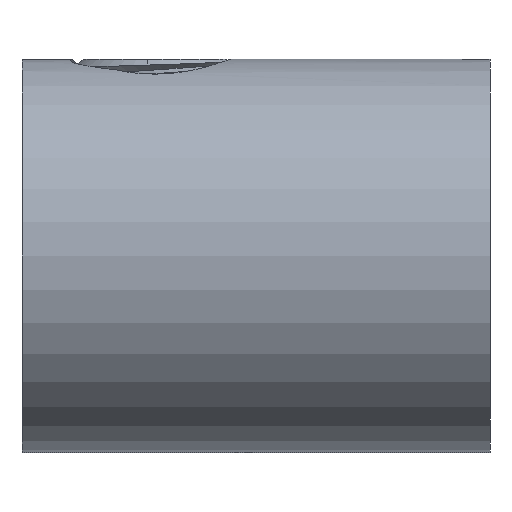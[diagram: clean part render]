
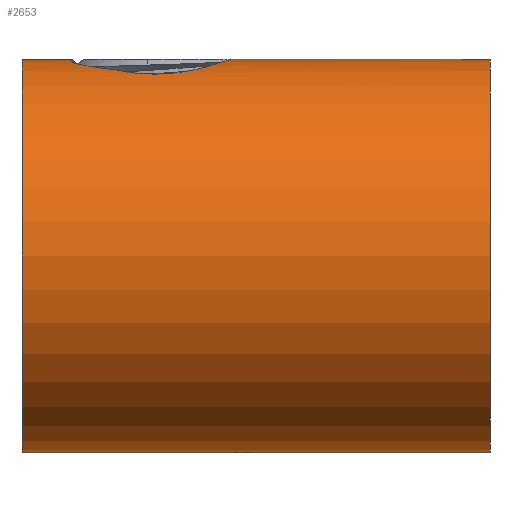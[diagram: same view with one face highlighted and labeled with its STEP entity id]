
A CAD part, left-side view. The second image highlights one B-rep face of the part: STEP entity #2653.
In plain terms, the highlighted cylindrical face has radius 5.334 mm (diameter 10.668 mm), a partial arc.
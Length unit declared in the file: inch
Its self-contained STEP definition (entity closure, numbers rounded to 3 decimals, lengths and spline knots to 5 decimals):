
#277 = EDGE_CURVE ( 'NONE', #2864, #8018, #7757, .T. ) ;
#318 = ORIENTED_EDGE ( 'NONE', *, *, #465, .F. ) ;
#402 = ORIENTED_EDGE ( 'NONE', *, *, #10448, .F. ) ;
#465 = EDGE_CURVE ( 'NONE', #1525, #2706, #4515, .T. ) ;
#517 = CARTESIAN_POINT ( 'NONE',  ( -0.0795, 0.358, 0.19437 ) ) ;
#715 = CARTESIAN_POINT ( 'NONE',  ( -0.06273, 0.41576, 0.20047 ) ) ;
#736 = EDGE_CURVE ( 'NONE', #2905, #11048, #1439, .T. ) ;
#751 = CARTESIAN_POINT ( 'NONE',  ( 0., 0.5, 0. ) ) ;
#885 = ORIENTED_EDGE ( 'NONE', *, *, #4196, .T. ) ;
#958 = CARTESIAN_POINT ( 'NONE',  ( 0., 0.5, 0.21 ) ) ;
#1030 = CARTESIAN_POINT ( 'NONE',  ( 0., 0.27771, 0.21 ) ) ;
#1151 = EDGE_CURVE ( 'NONE', #3807, #11091, #8131, .T. ) ;
#1189 = CARTESIAN_POINT ( 'NONE',  ( -0.04395, 0.44222, 0.20535 ) ) ;
#1252 = ORIENTED_EDGE ( 'NONE', *, *, #8377, .F. ) ;
#1267 = CARTESIAN_POINT ( 'NONE',  ( -0.03186, 0.28516, 0.20757 ) ) ;
#1312 = CARTESIAN_POINT ( 'NONE',  ( 0., 0., -0.21 ) ) ;
#1439 = B_SPLINE_CURVE_WITH_KNOTS ( 'NONE', 3,
 ( #2035, #9363, #3024, #11178, #2913, #3908 ),
 .UNSPECIFIED., .F., .F.,
 ( 4, 2, 4 ),
 ( 0.00082, 0.00124, 0.00166 ),
 .UNSPECIFIED. ) ;
#1516 = B_SPLINE_CURVE_WITH_KNOTS ( 'NONE', 3,
 ( #3607, #8990, #9942, #3531, #7223, #1774, #5369, #2535, #6285, #10732 ),
 .UNSPECIFIED., .F., .F.,
 ( 4, 2, 2, 2, 4 ),
 ( 0.00402, 0.00461, 0.0052, 0.00578, 0.00637 ),
 .UNSPECIFIED. ) ;
#1525 = VERTEX_POINT ( 'NONE', #6782 ) ;
#1611 = CARTESIAN_POINT ( 'NONE',  ( -0.04395, 0.44222, 0.20535 ) ) ;
#1645 = CARTESIAN_POINT ( 'NONE',  ( -0.04127, 0.44362, 0.20592 ) ) ;
#1692 = CARTESIAN_POINT ( 'NONE',  ( -0.02694, 0.4491, 0.20827 ) ) ;
#1699 = DIRECTION ( 'NONE',  ( 0., 0., 1. ) ) ;
#1774 = CARTESIAN_POINT ( 'NONE',  ( -0.07062, 0.32069, 0.19782 ) ) ;
#1837 = CARTESIAN_POINT ( 'NONE',  ( 0., 0.5, 0.21 ) ) ;
#2035 = CARTESIAN_POINT ( 'NONE',  ( -0.03186, 0.28516, 0.20757 ) ) ;
#2064 = VECTOR ( 'NONE', #7557, 39.37008 ) ;
#2191 = CARTESIAN_POINT ( 'NONE',  ( -0.07842, 0.37301, 0.19482 ) ) ;
#2262 = CYLINDRICAL_SURFACE ( 'NONE', #4086, 0.21 ) ;
#2408 = CARTESIAN_POINT ( 'NONE',  ( -0.04395, 0.44222, 0.20535 ) ) ;
#2529 = CARTESIAN_POINT ( 'NONE',  ( -0.02694, 0.4491, 0.20827 ) ) ;
#2535 = CARTESIAN_POINT ( 'NONE',  ( -0.07834, 0.34243, 0.19486 ) ) ;
#2572 = CARTESIAN_POINT ( 'NONE',  ( -0.02988, 0.44823, 0.20788 ) ) ;
#2653 = ADVANCED_FACE ( 'NONE', ( #5813 ), #2262, .T. ) ;
#2703 = EDGE_CURVE ( 'NONE', #8008, #8018, #3778, .T. ) ;
#2706 = VERTEX_POINT ( 'NONE', #3356 ) ;
#2864 = VERTEX_POINT ( 'NONE', #1189 ) ;
#2905 = VERTEX_POINT ( 'NONE', #1267 ) ;
#2913 = CARTESIAN_POINT ( 'NONE',  ( -0.00558, 0.2771, 0.21 ) ) ;
#3003 = CARTESIAN_POINT ( 'NONE',  ( 0., 0., 0.21 ) ) ;
#3024 = CARTESIAN_POINT ( 'NONE',  ( -0.02195, 0.28009, 0.20892 ) ) ;
#3107 = CARTESIAN_POINT ( 'NONE',  ( -0.07119, 0.39414, 0.19761 ) ) ;
#3291 = EDGE_CURVE ( 'NONE', #2706, #8008, #5675, .T. ) ;
#3356 = CARTESIAN_POINT ( 'NONE',  ( 0., 0.5, 0.21 ) ) ;
#3531 = CARTESIAN_POINT ( 'NONE',  ( -0.05716, 0.30221, 0.20216 ) ) ;
#3607 = CARTESIAN_POINT ( 'NONE',  ( -0.03186, 0.28516, 0.20757 ) ) ;
#3645 = LINE ( 'NONE', #1837, #11262 ) ;
#3778 = B_SPLINE_CURVE_WITH_KNOTS ( 'NONE', 3,
 ( #7012, #4384, #11608, #6220 ),
 .UNSPECIFIED., .F., .F.,
 ( 4, 4 ),
 ( 0.00128, 0.00196 ),
 .UNSPECIFIED. ) ;
#3807 = VERTEX_POINT ( 'NONE', #517 ) ;
#3908 = CARTESIAN_POINT ( 'NONE',  ( 0., 0.27771, 0.21 ) ) ;
#4026 = CARTESIAN_POINT ( 'NONE',  ( -0.06727, 0.40037, 0.19893 ) ) ;
#4086 = AXIS2_PLACEMENT_3D ( 'NONE', #7862, #8773, #11525 ) ;
#4165 = CARTESIAN_POINT ( 'NONE',  ( -0.05491, 0.43036, 0.203 ) ) ;
#4196 = EDGE_CURVE ( 'NONE', #7032, #7244, #8467, .T. ) ;
#4384 = CARTESIAN_POINT ( 'NONE',  ( -0.00897, 0.4483, 0.21 ) ) ;
#4395 = CARTESIAN_POINT ( 'NONE',  ( 0., 0.44742, 0.21 ) ) ;
#4434 = CARTESIAN_POINT ( 'NONE',  ( -0.03851, 0.4449, 0.20646 ) ) ;
#4486 = CARTESIAN_POINT ( 'NONE',  ( 0., 0., 0. ) ) ;
#4515 = CIRCLE ( 'NONE', #5220, 0.21 ) ;
#4856 = CARTESIAN_POINT ( 'NONE',  ( -0.06727, 0.40037, 0.19893 ) ) ;
#5220 = AXIS2_PLACEMENT_3D ( 'NONE', #751, #7989, #8026 ) ;
#5245 = AXIS2_PLACEMENT_3D ( 'NONE', #4486, #6246, #1699 ) ;
#5369 = CARTESIAN_POINT ( 'NONE',  ( -0.07391, 0.32772, 0.19658 ) ) ;
#5675 = LINE ( 'NONE', #958, #11746 ) ;
#5801 = ORIENTED_EDGE ( 'NONE', *, *, #1151, .T. ) ;
#5813 = FACE_OUTER_BOUND ( 'NONE', #6336, .T. ) ;
#6220 = CARTESIAN_POINT ( 'NONE',  ( -0.02694, 0.4491, 0.20827 ) ) ;
#6246 = DIRECTION ( 'NONE',  ( 0., 1., 0. ) ) ;
#6285 = CARTESIAN_POINT ( 'NONE',  ( -0.0795, 0.35028, 0.19437 ) ) ;
#6336 = EDGE_LOOP ( 'NONE', ( #8720, #318, #8709, #885, #1252, #7379, #10088, #5801, #402, #9932, #9402 ) ) ;
#6782 = CARTESIAN_POINT ( 'NONE',  ( 0., 0.5, -0.21 ) ) ;
#7012 = CARTESIAN_POINT ( 'NONE',  ( 0., 0.44742, 0.21 ) ) ;
#7032 = VERTEX_POINT ( 'NONE', #1312 ) ;
#7223 = CARTESIAN_POINT ( 'NONE',  ( -0.06221, 0.30792, 0.20062 ) ) ;
#7244 = VERTEX_POINT ( 'NONE', #3003 ) ;
#7379 = ORIENTED_EDGE ( 'NONE', *, *, #736, .F. ) ;
#7486 = CARTESIAN_POINT ( 'NONE',  ( 0., 0.5, -0.21 ) ) ;
#7488 = EDGE_CURVE ( 'NONE', #1525, #7032, #10160, .T. ) ;
#7557 = DIRECTION ( 'NONE',  ( 0., -1., 0. ) ) ;
#7627 = CARTESIAN_POINT ( 'NONE',  ( -0.0795, 0.36545, 0.19437 ) ) ;
#7757 = B_SPLINE_CURVE_WITH_KNOTS ( 'NONE', 3,
 ( #2408, #1645, #4434, #8950, #2572, #1692 ),
 .UNSPECIFIED., .F., .F.,
 ( 4, 2, 4 ),
 ( 0.00444, 0.00468, 0.00491 ),
 .UNSPECIFIED. ) ;
#7862 = CARTESIAN_POINT ( 'NONE',  ( 0., 0.5, 0. ) ) ;
#7989 = DIRECTION ( 'NONE',  ( 0., 1., 0. ) ) ;
#8008 = VERTEX_POINT ( 'NONE', #4395 ) ;
#8018 = VERTEX_POINT ( 'NONE', #2529 ) ;
#8026 = DIRECTION ( 'NONE',  ( 0., 0., 1. ) ) ;
#8131 = B_SPLINE_CURVE_WITH_KNOTS ( 'NONE', 3,
 ( #10397, #7627, #2191, #8528, #3107, #4026 ),
 .UNSPECIFIED., .F., .F.,
 ( 4, 2, 4 ),
 ( 0.00637, 0.00694, 0.00751 ),
 .UNSPECIFIED. ) ;
#8377 = EDGE_CURVE ( 'NONE', #11048, #7244, #3645, .T. ) ;
#8467 = CIRCLE ( 'NONE', #5245, 0.21 ) ;
#8528 = CARTESIAN_POINT ( 'NONE',  ( -0.07429, 0.38727, 0.19643 ) ) ;
#8709 = ORIENTED_EDGE ( 'NONE', *, *, #7488, .T. ) ;
#8720 = ORIENTED_EDGE ( 'NONE', *, *, #3291, .F. ) ;
#8773 = DIRECTION ( 'NONE',  ( 0., -1., 0. ) ) ;
#8950 = CARTESIAN_POINT ( 'NONE',  ( -0.03281, 0.44721, 0.20744 ) ) ;
#8966 = DIRECTION ( 'NONE',  ( 0., -1., 0. ) ) ;
#8990 = CARTESIAN_POINT ( 'NONE',  ( -0.03896, 0.28827, 0.20648 ) ) ;
#9363 = CARTESIAN_POINT ( 'NONE',  ( -0.02712, 0.28233, 0.2083 ) ) ;
#9402 = ORIENTED_EDGE ( 'NONE', *, *, #2703, .F. ) ;
#9732 = CARTESIAN_POINT ( 'NONE',  ( -0.06727, 0.40037, 0.19893 ) ) ;
#9932 = ORIENTED_EDGE ( 'NONE', *, *, #277, .T. ) ;
#9942 = CARTESIAN_POINT ( 'NONE',  ( -0.04543, 0.29231, 0.20512 ) ) ;
#9948 = B_SPLINE_CURVE_WITH_KNOTS ( 'NONE', 3,
 ( #1611, #4165, #715, #9732 ),
 .UNSPECIFIED., .F., .F.,
 ( 4, 4 ),
 ( 0., 0.00124 ),
 .UNSPECIFIED. ) ;
#10088 = ORIENTED_EDGE ( 'NONE', *, *, #10742, .T. ) ;
#10160 = LINE ( 'NONE', #7486, #2064 ) ;
#10397 = CARTESIAN_POINT ( 'NONE',  ( -0.0795, 0.358, 0.19437 ) ) ;
#10448 = EDGE_CURVE ( 'NONE', #2864, #11091, #9948, .T. ) ;
#10732 = CARTESIAN_POINT ( 'NONE',  ( -0.0795, 0.358, 0.19437 ) ) ;
#10742 = EDGE_CURVE ( 'NONE', #2905, #3807, #1516, .T. ) ;
#10776 = DIRECTION ( 'NONE',  ( 0., -1., 0. ) ) ;
#11048 = VERTEX_POINT ( 'NONE', #1030 ) ;
#11091 = VERTEX_POINT ( 'NONE', #4856 ) ;
#11178 = CARTESIAN_POINT ( 'NONE',  ( -0.01116, 0.27749, 0.20977 ) ) ;
#11262 = VECTOR ( 'NONE', #8966, 39.37008 ) ;
#11525 = DIRECTION ( 'NONE',  ( 0., 0., -1. ) ) ;
#11608 = CARTESIAN_POINT ( 'NONE',  ( -0.01798, 0.44882, 0.20942 ) ) ;
#11746 = VECTOR ( 'NONE', #10776, 39.37008 ) ;
